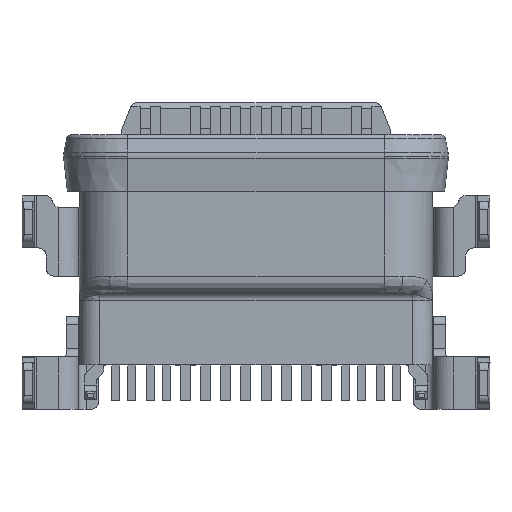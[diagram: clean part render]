
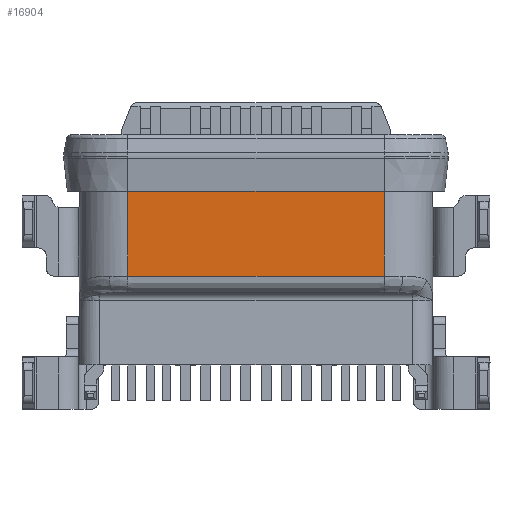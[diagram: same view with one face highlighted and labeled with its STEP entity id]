
A CAD part, front view. The second image highlights one B-rep face of the part: STEP entity #16904.
In plain terms, the highlighted planar face has unit normal (0, -1, 0).
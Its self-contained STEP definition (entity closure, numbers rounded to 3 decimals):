
#150 = LINE ( 'NONE', #21786, #12826 ) ;
#1769 = CARTESIAN_POINT ( 'NONE',  ( -11.825, -6.48, -2.75 ) ) ;
#2034 = CARTESIAN_POINT ( 'NONE',  ( -18.175, -6.48, -5.55 ) ) ;
#2936 = CARTESIAN_POINT ( 'NONE',  ( -11.825, -6.48, -5.55 ) ) ;
#3888 = CARTESIAN_POINT ( 'NONE',  ( -11.825, -6.48, -2.75 ) ) ;
#6346 = EDGE_CURVE ( 'NONE', #22400, #32710, #12923, .T. ) ;
#6886 = VECTOR ( 'NONE', #13392, 1000. ) ;
#8171 = CARTESIAN_POINT ( 'NONE',  ( -11.825, -6.48, -2.75 ) ) ;
#12195 = EDGE_CURVE ( 'NONE', #15447, #22400, #15424, .T. ) ;
#12532 = EDGE_CURVE ( 'NONE', #32710, #17959, #150, .T. ) ;
#12826 = VECTOR ( 'NONE', #18224, 1000. ) ;
#12923 = LINE ( 'NONE', #27412, #6886 ) ;
#13064 = EDGE_LOOP ( 'NONE', ( #38250, #24152, #26131, #46564 ) ) ;
#13392 = DIRECTION ( 'NONE',  ( -1., 0., 0. ) ) ;
#15190 = DIRECTION ( 'NONE',  ( 0., 0., -1. ) ) ;
#15424 = LINE ( 'NONE', #22537, #40917 ) ;
#15447 = VERTEX_POINT ( 'NONE', #3888 ) ;
#16904 = ADVANCED_FACE ( 'NONE', ( #44317 ), #26210, .F. ) ;
#17959 = VERTEX_POINT ( 'NONE', #19742 ) ;
#18224 = DIRECTION ( 'NONE',  ( 0., 0., 1. ) ) ;
#19742 = CARTESIAN_POINT ( 'NONE',  ( -18.175, -6.48, -2.75 ) ) ;
#21786 = CARTESIAN_POINT ( 'NONE',  ( -18.175, -6.48, -2.75 ) ) ;
#22400 = VERTEX_POINT ( 'NONE', #2936 ) ;
#22537 = CARTESIAN_POINT ( 'NONE',  ( -11.825, -6.48, -2.75 ) ) ;
#23805 = DIRECTION ( 'NONE',  ( 0., 0., 1. ) ) ;
#24152 = ORIENTED_EDGE ( 'NONE', *, *, #6346, .F. ) ;
#26131 = ORIENTED_EDGE ( 'NONE', *, *, #12195, .F. ) ;
#26210 = PLANE ( 'NONE',  #42622 ) ;
#26738 = LINE ( 'NONE', #1769, #45242 ) ;
#27194 = DIRECTION ( 'NONE',  ( 1., 0., 0. ) ) ;
#27412 = CARTESIAN_POINT ( 'NONE',  ( -11.825, -6.48, -5.55 ) ) ;
#32710 = VERTEX_POINT ( 'NONE', #2034 ) ;
#38250 = ORIENTED_EDGE ( 'NONE', *, *, #12532, .F. ) ;
#40371 = EDGE_CURVE ( 'NONE', #17959, #15447, #26738, .T. ) ;
#40917 = VECTOR ( 'NONE', #15190, 1000. ) ;
#41919 = DIRECTION ( 'NONE',  ( 0., 1., 0. ) ) ;
#42622 = AXIS2_PLACEMENT_3D ( 'NONE', #8171, #41919, #23805 ) ;
#44317 = FACE_OUTER_BOUND ( 'NONE', #13064, .T. ) ;
#45242 = VECTOR ( 'NONE', #27194, 1000. ) ;
#46564 = ORIENTED_EDGE ( 'NONE', *, *, #40371, .F. ) ;
